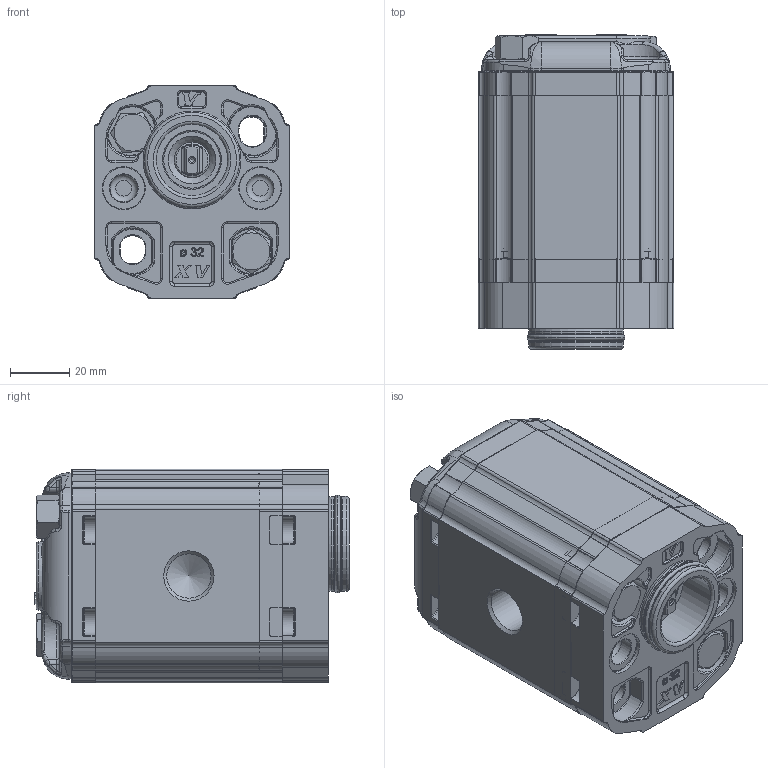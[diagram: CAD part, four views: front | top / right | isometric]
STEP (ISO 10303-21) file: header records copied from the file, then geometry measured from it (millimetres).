
FILE_DESCRIPTION( ( 'Unknown' ), '1' );
FILE_NAME( 'P:/montaggio_easy/output/STP/X1P3232CBBA.stp', 'Unknown', ( 'Unknown' ), ( 'Unknown' ), 'PSStep 14.0', 'Unknown', ' ' );
FILE_SCHEMA( ( 'AUTOMOTIVE_DESIGN { 1 0 10303 214 1 1 1 1 }' ) );
Length unit declared in the file: millimetre
Products named in the file (5): Assem1; X1P32; 1C; X1BBH63; XP161-A
Bounding box: 66 x 105.9 x 72 mm (x, y, z)
Surface area: 137505.1 mm2
Topology: 8 solids, 10 shells, 3640 faces, 9232 edges, 5848 vertices
Faces by surface type: plane 1622, cylinder 974, torus 386, extrusion 296, bspline 256, cone 98, sphere 8
Full cylindrical faces by diameter (mm): 1.5 x2, 3 x8, 8 x8, 8.5 x6, 9 x4, 9.3 x4, 10.5 x4, 11.965 x2, 12 x2, 14.5 x4, 14.95 x4, 15.941 x2, 17.99 x2, 19.02 x4, 24 x2, 29.4 x4, 32 x4, 32.96 x2
Entity records: 77055 total; most frequent: CARTESIAN_POINT 19596, ORIENTED_EDGE 8948, DIRECTION 8632, EDGE_CURVE 4474, AXIS2_PLACEMENT_3D 2998, VERTEX_POINT 2887, VECTOR 2636, LINE 2488
